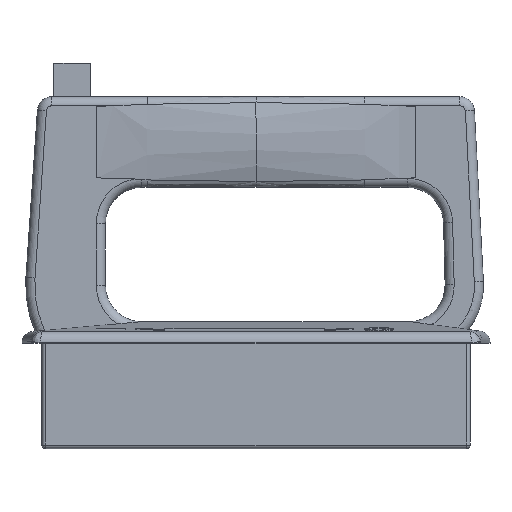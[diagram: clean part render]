
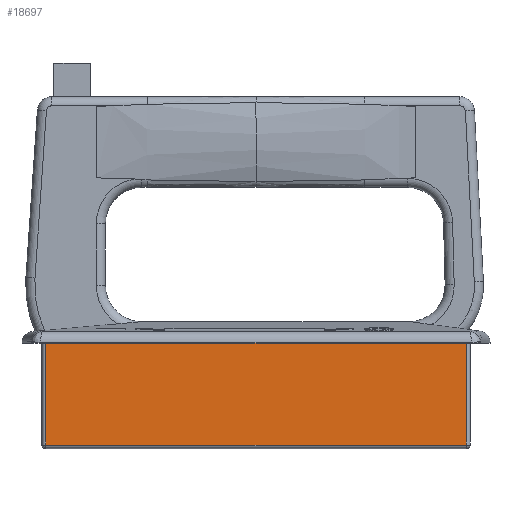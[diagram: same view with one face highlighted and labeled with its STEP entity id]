
A CAD part, left-side view. The second image highlights one B-rep face of the part: STEP entity #18697.
In plain terms, the highlighted planar face has unit normal (-1, 0, 0).
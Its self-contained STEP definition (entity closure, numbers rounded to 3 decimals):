
#1410 = CARTESIAN_POINT ( 'NONE',  ( -11., 122.5, -29. ) ) ;
#1447 = VERTEX_POINT ( 'NONE', #5476 ) ;
#1536 = VECTOR ( 'NONE', #19855, 1000. ) ;
#1940 = FACE_OUTER_BOUND ( 'NONE', #10276, .T. ) ;
#2855 = DIRECTION ( 'NONE',  ( 0., 0., 1. ) ) ;
#3043 = DIRECTION ( 'NONE',  ( 0., -1., 0. ) ) ;
#4445 = VECTOR ( 'NONE', #3043, 1000. ) ;
#4587 = CARTESIAN_POINT ( 'NONE',  ( -11., 122.5, 0. ) ) ;
#5006 = EDGE_CURVE ( 'NONE', #1447, #14775, #5863, .T. ) ;
#5211 = LINE ( 'NONE', #1410, #20904 ) ;
#5476 = CARTESIAN_POINT ( 'NONE',  ( -11., 6.5, 0. ) ) ;
#5863 = LINE ( 'NONE', #18024, #1536 ) ;
#7092 = DIRECTION ( 'NONE',  ( 1., 0., 0. ) ) ;
#8719 = DIRECTION ( 'NONE',  ( 0., 1., 0. ) ) ;
#8774 = LINE ( 'NONE', #17802, #4445 ) ;
#9068 = ORIENTED_EDGE ( 'NONE', *, *, #14154, .T. ) ;
#9355 = DIRECTION ( 'NONE',  ( 0., 0., -1. ) ) ;
#9601 = CARTESIAN_POINT ( 'NONE',  ( -11., 6.5, -28. ) ) ;
#10276 = EDGE_LOOP ( 'NONE', ( #15709, #16548, #15483, #9068 ) ) ;
#11967 = EDGE_CURVE ( 'NONE', #19233, #1447, #17687, .T. ) ;
#12830 = CARTESIAN_POINT ( 'NONE',  ( -11., 6.5, -29. ) ) ;
#14154 = EDGE_CURVE ( 'NONE', #14775, #17004, #5211, .T. ) ;
#14359 = EDGE_CURVE ( 'NONE', #17004, #19233, #8774, .T. ) ;
#14775 = VERTEX_POINT ( 'NONE', #4587 ) ;
#15483 = ORIENTED_EDGE ( 'NONE', *, *, #5006, .T. ) ;
#15709 = ORIENTED_EDGE ( 'NONE', *, *, #14359, .T. ) ;
#16548 = ORIENTED_EDGE ( 'NONE', *, *, #11967, .T. ) ;
#16739 = AXIS2_PLACEMENT_3D ( 'NONE', #16752, #7092, #8719 ) ;
#16752 = CARTESIAN_POINT ( 'NONE',  ( -11., 123.5, -29. ) ) ;
#17004 = VERTEX_POINT ( 'NONE', #17304 ) ;
#17304 = CARTESIAN_POINT ( 'NONE',  ( -11., 122.5, -28. ) ) ;
#17687 = LINE ( 'NONE', #12830, #20724 ) ;
#17802 = CARTESIAN_POINT ( 'NONE',  ( -11., 5.5, -28. ) ) ;
#18024 = CARTESIAN_POINT ( 'NONE',  ( -11., 123.5, 0. ) ) ;
#18153 = PLANE ( 'NONE',  #16739 ) ;
#18697 = ADVANCED_FACE ( 'NONE', ( #1940 ), #18153, .F. ) ;
#19233 = VERTEX_POINT ( 'NONE', #9601 ) ;
#19855 = DIRECTION ( 'NONE',  ( 0., 1., 0. ) ) ;
#20724 = VECTOR ( 'NONE', #2855, 1000. ) ;
#20904 = VECTOR ( 'NONE', #9355, 1000. ) ;
